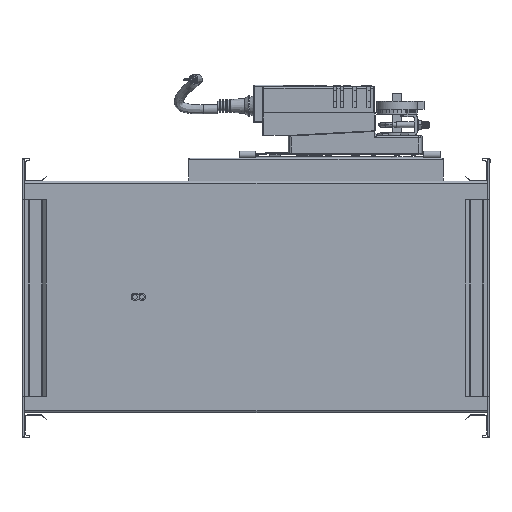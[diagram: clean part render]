
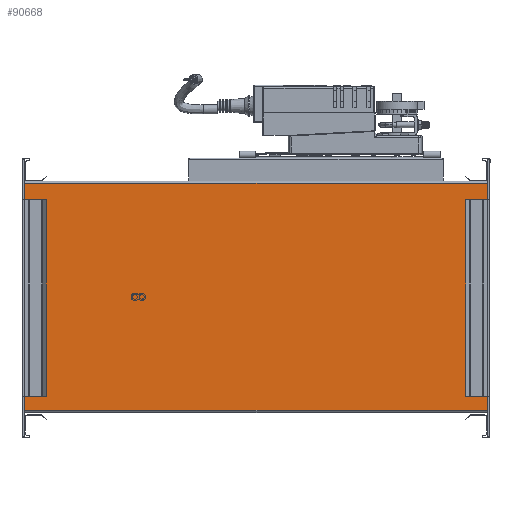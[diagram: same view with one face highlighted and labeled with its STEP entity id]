
A CAD part, front view. The second image highlights one B-rep face of the part: STEP entity #90668.
In plain terms, the highlighted planar face has unit normal (0, -1, 0).
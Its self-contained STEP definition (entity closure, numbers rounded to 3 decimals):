
#78 = ORIENTED_EDGE ( 'NONE', *, *, #57886, .F. ) ;
#974 = EDGE_LOOP ( 'NONE', ( #80597, #78, #45562, #11384 ) ) ;
#5457 = CARTESIAN_POINT ( 'NONE',  ( 155.577, -35.848, 1002. ) ) ;
#6103 = EDGE_CURVE ( 'NONE', #27795, #47834, #70109, .T. ) ;
#6856 = CARTESIAN_POINT ( 'NONE',  ( -244.423, -35.848, 1002. ) ) ;
#11384 = ORIENTED_EDGE ( 'NONE', *, *, #83047, .T. ) ;
#11860 = EDGE_CURVE ( 'NONE', #29873, #89002, #68404, .T. ) ;
#18473 = DIRECTION ( 'NONE',  ( 1., 0., 0. ) ) ;
#19443 = CARTESIAN_POINT ( 'NONE',  ( 155.577, -35.848, 1198. ) ) ;
#21320 = DIRECTION ( 'NONE',  ( 0., -1., 0. ) ) ;
#25548 = CARTESIAN_POINT ( 'NONE',  ( -244.423, -35.848, 1198. ) ) ;
#27795 = VERTEX_POINT ( 'NONE', #88956 ) ;
#29277 = VECTOR ( 'NONE', #39577, 1000. ) ;
#29873 = VERTEX_POINT ( 'NONE', #19443 ) ;
#33971 = FACE_OUTER_BOUND ( 'NONE', #974, .T. ) ;
#34719 = DIRECTION ( 'NONE',  ( 0., 0., -1. ) ) ;
#38895 = VECTOR ( 'NONE', #34719, 1000. ) ;
#39117 = VECTOR ( 'NONE', #90299, 1000. ) ;
#39577 = DIRECTION ( 'NONE',  ( 1., 0., 0. ) ) ;
#45562 = ORIENTED_EDGE ( 'NONE', *, *, #6103, .T. ) ;
#47834 = VERTEX_POINT ( 'NONE', #85301 ) ;
#48906 = VECTOR ( 'NONE', #18473, 1000. ) ;
#57886 = EDGE_CURVE ( 'NONE', #27795, #29873, #88465, .T. ) ;
#64193 = PLANE ( 'NONE',  #83694 ) ;
#67370 = LINE ( 'NONE', #74834, #48906 ) ;
#68404 = LINE ( 'NONE', #5457, #39117 ) ;
#70109 = LINE ( 'NONE', #91578, #38895 ) ;
#70249 = DIRECTION ( 'NONE',  ( 0., 0., -1. ) ) ;
#74834 = CARTESIAN_POINT ( 'NONE',  ( -244.423, -35.848, 1002. ) ) ;
#80597 = ORIENTED_EDGE ( 'NONE', *, *, #11860, .F. ) ;
#83047 = EDGE_CURVE ( 'NONE', #47834, #89002, #67370, .T. ) ;
#83694 = AXIS2_PLACEMENT_3D ( 'NONE', #6856, #21320, #70249 ) ;
#85301 = CARTESIAN_POINT ( 'NONE',  ( -244.423, -35.848, 1002. ) ) ;
#88465 = LINE ( 'NONE', #25548, #29277 ) ;
#88956 = CARTESIAN_POINT ( 'NONE',  ( -244.423, -35.848, 1198. ) ) ;
#89002 = VERTEX_POINT ( 'NONE', #90869 ) ;
#90299 = DIRECTION ( 'NONE',  ( 0., 0., -1. ) ) ;
#90668 = ADVANCED_FACE ( 'NONE', ( #33971 ), #64193, .T. ) ;
#90869 = CARTESIAN_POINT ( 'NONE',  ( 155.577, -35.848, 1002. ) ) ;
#91578 = CARTESIAN_POINT ( 'NONE',  ( -244.423, -35.848, 1002. ) ) ;
